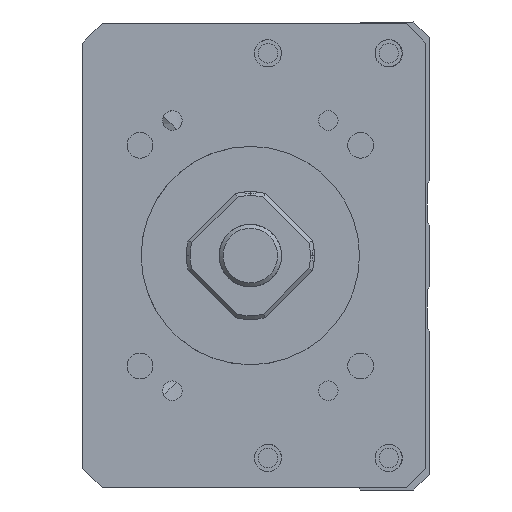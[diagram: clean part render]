
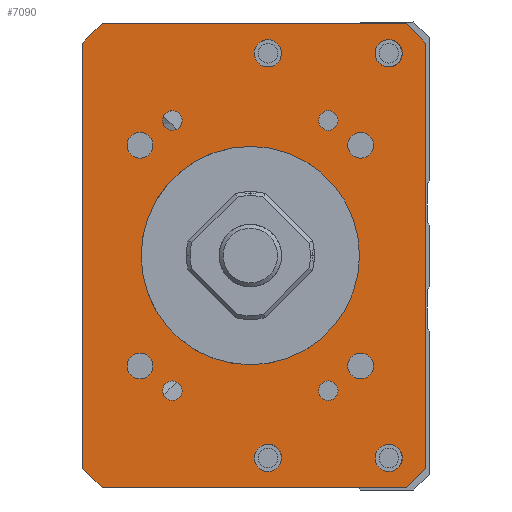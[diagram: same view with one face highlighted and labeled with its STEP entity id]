
A CAD part, left-side view. The second image highlights one B-rep face of the part: STEP entity #7090.
In plain terms, the highlighted planar face has unit normal (-1, 0, 0).
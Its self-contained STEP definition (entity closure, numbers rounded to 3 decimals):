
#4241=CIRCLE('',#14007,14.);
#4250=CIRCLE('',#14018,1.65);
#4251=CIRCLE('',#14019,1.65);
#4252=CIRCLE('',#14020,1.65);
#4253=CIRCLE('',#14021,1.65);
#4254=CIRCLE('',#14022,1.25);
#4255=CIRCLE('',#14023,1.75);
#4256=CIRCLE('',#14024,1.25);
#4257=CIRCLE('',#14025,1.75);
#4258=CIRCLE('',#14026,1.25);
#4259=CIRCLE('',#14027,1.75);
#4260=CIRCLE('',#14028,1.75);
#4261=CIRCLE('',#14029,1.25);
#4680=PLANE('',#14030);
#5469=LINE('',#18065,#6276);
#5471=LINE('',#18089,#6278);
#5472=LINE('',#18091,#6279);
#5473=LINE('',#18093,#6280);
#5474=LINE('',#18095,#6281);
#5475=LINE('',#18097,#6282);
#5476=LINE('',#18099,#6283);
#5477=LINE('',#18101,#6284);
#6276=VECTOR('',#15136,1.);
#6278=VECTOR('',#15160,1.);
#6279=VECTOR('',#15161,1.);
#6280=VECTOR('',#15162,1.);
#6281=VECTOR('',#15163,1.);
#6282=VECTOR('',#15164,1.);
#6283=VECTOR('',#15165,1.);
#6284=VECTOR('',#15166,1.);
#7090=ADVANCED_FACE('',(#7845,#7846,#7847,#7848,#7849,#7850,#7851,#7852,
#7853,#7854,#7855,#7856,#7857,#7858),#4680,.F.);
#7845=FACE_BOUND('',#8260,.T.);
#7846=FACE_BOUND('',#8261,.T.);
#7847=FACE_BOUND('',#8262,.T.);
#7848=FACE_BOUND('',#8263,.T.);
#7849=FACE_BOUND('',#8264,.T.);
#7850=FACE_BOUND('',#8265,.T.);
#7851=FACE_BOUND('',#8266,.T.);
#7852=FACE_BOUND('',#8267,.T.);
#7853=FACE_BOUND('',#8268,.T.);
#7854=FACE_BOUND('',#8269,.T.);
#7855=FACE_BOUND('',#8270,.T.);
#7856=FACE_BOUND('',#8271,.T.);
#7857=FACE_BOUND('',#8272,.T.);
#7858=FACE_BOUND('',#8273,.T.);
#8260=EDGE_LOOP('',(#9196));
#8261=EDGE_LOOP('',(#9197));
#8262=EDGE_LOOP('',(#9198));
#8263=EDGE_LOOP('',(#9199));
#8264=EDGE_LOOP('',(#9200));
#8265=EDGE_LOOP('',(#9201));
#8266=EDGE_LOOP('',(#9202));
#8267=EDGE_LOOP('',(#9203));
#8268=EDGE_LOOP('',(#9204));
#8269=EDGE_LOOP('',(#9205,#9206,#9207,#9208,#9209,#9210,#9211,#9212));
#8270=EDGE_LOOP('',(#9213));
#8271=EDGE_LOOP('',(#9214));
#8272=EDGE_LOOP('',(#9215));
#8273=EDGE_LOOP('',(#9216));
#9196=ORIENTED_EDGE('',*,*,#12645,.F.);
#9197=ORIENTED_EDGE('',*,*,#12646,.F.);
#9198=ORIENTED_EDGE('',*,*,#12647,.F.);
#9199=ORIENTED_EDGE('',*,*,#12648,.F.);
#9200=ORIENTED_EDGE('',*,*,#12649,.F.);
#9201=ORIENTED_EDGE('',*,*,#12650,.T.);
#9202=ORIENTED_EDGE('',*,*,#12651,.F.);
#9203=ORIENTED_EDGE('',*,*,#12652,.F.);
#9204=ORIENTED_EDGE('',*,*,#12653,.F.);
#9205=ORIENTED_EDGE('',*,*,#12642,.T.);
#9206=ORIENTED_EDGE('',*,*,#12654,.T.);
#9207=ORIENTED_EDGE('',*,*,#12655,.F.);
#9208=ORIENTED_EDGE('',*,*,#12656,.T.);
#9209=ORIENTED_EDGE('',*,*,#12657,.F.);
#9210=ORIENTED_EDGE('',*,*,#12658,.T.);
#9211=ORIENTED_EDGE('',*,*,#12659,.T.);
#9212=ORIENTED_EDGE('',*,*,#12660,.T.);
#9213=ORIENTED_EDGE('',*,*,#12661,.F.);
#9214=ORIENTED_EDGE('',*,*,#12662,.F.);
#9215=ORIENTED_EDGE('',*,*,#12663,.F.);
#9216=ORIENTED_EDGE('',*,*,#12622,.F.);
#11675=VERTEX_POINT('',#17988);
#11695=VERTEX_POINT('',#18064);
#11696=VERTEX_POINT('',#18066);
#11698=VERTEX_POINT('',#18072);
#11699=VERTEX_POINT('',#18074);
#11700=VERTEX_POINT('',#18076);
#11701=VERTEX_POINT('',#18078);
#11702=VERTEX_POINT('',#18080);
#11703=VERTEX_POINT('',#18082);
#11704=VERTEX_POINT('',#18084);
#11705=VERTEX_POINT('',#18086);
#11706=VERTEX_POINT('',#18088);
#11707=VERTEX_POINT('',#18090);
#11708=VERTEX_POINT('',#18092);
#11709=VERTEX_POINT('',#18094);
#11710=VERTEX_POINT('',#18096);
#11711=VERTEX_POINT('',#18098);
#11712=VERTEX_POINT('',#18100);
#11713=VERTEX_POINT('',#18103);
#11714=VERTEX_POINT('',#18105);
#11715=VERTEX_POINT('',#18107);
#12622=EDGE_CURVE('',#11675,#11675,#4241,.T.);
#12642=EDGE_CURVE('',#11696,#11695,#5469,.T.);
#12645=EDGE_CURVE('',#11698,#11698,#4250,.T.);
#12646=EDGE_CURVE('',#11699,#11699,#4251,.T.);
#12647=EDGE_CURVE('',#11700,#11700,#4252,.T.);
#12648=EDGE_CURVE('',#11701,#11701,#4253,.T.);
#12649=EDGE_CURVE('',#11702,#11702,#4254,.T.);
#12650=EDGE_CURVE('',#11703,#11703,#4255,.T.);
#12651=EDGE_CURVE('',#11704,#11704,#4256,.T.);
#12652=EDGE_CURVE('',#11705,#11705,#4257,.T.);
#12653=EDGE_CURVE('',#11706,#11706,#4258,.T.);
#12654=EDGE_CURVE('',#11695,#11707,#5471,.T.);
#12655=EDGE_CURVE('',#11708,#11707,#5472,.T.);
#12656=EDGE_CURVE('',#11708,#11709,#5473,.T.);
#12657=EDGE_CURVE('',#11710,#11709,#5474,.T.);
#12658=EDGE_CURVE('',#11710,#11711,#5475,.T.);
#12659=EDGE_CURVE('',#11711,#11712,#5476,.T.);
#12660=EDGE_CURVE('',#11712,#11696,#5477,.T.);
#12661=EDGE_CURVE('',#11713,#11713,#4259,.T.);
#12662=EDGE_CURVE('',#11714,#11714,#4260,.T.);
#12663=EDGE_CURVE('',#11715,#11715,#4261,.T.);
#14007=AXIS2_PLACEMENT_3D('',#17987,#15110,#15111);
#14018=AXIS2_PLACEMENT_3D('',#18071,#15142,#15143);
#14019=AXIS2_PLACEMENT_3D('',#18073,#15144,#15145);
#14020=AXIS2_PLACEMENT_3D('',#18075,#15146,#15147);
#14021=AXIS2_PLACEMENT_3D('',#18077,#15148,#15149);
#14022=AXIS2_PLACEMENT_3D('',#18079,#15150,#15151);
#14023=AXIS2_PLACEMENT_3D('',#18081,#15152,#15153);
#14024=AXIS2_PLACEMENT_3D('',#18083,#15154,#15155);
#14025=AXIS2_PLACEMENT_3D('',#18085,#15156,#15157);
#14026=AXIS2_PLACEMENT_3D('',#18087,#15158,#15159);
#14027=AXIS2_PLACEMENT_3D('',#18102,#15167,#15168);
#14028=AXIS2_PLACEMENT_3D('',#18104,#15169,#15170);
#14029=AXIS2_PLACEMENT_3D('',#18106,#15171,#15172);
#14030=AXIS2_PLACEMENT_3D('',#18108,#15173,#15174);
#15110=DIRECTION('',(-1.,0.,0.));
#15111=DIRECTION('',(0.,1.,0.));
#15136=DIRECTION('',(0.,0.,-1.));
#15142=DIRECTION('',(-1.,0.,0.));
#15143=DIRECTION('',(0.,0.,1.));
#15144=DIRECTION('',(-1.,0.,0.));
#15145=DIRECTION('',(0.,0.,1.));
#15146=DIRECTION('',(-1.,0.,0.));
#15147=DIRECTION('',(0.,0.,1.));
#15148=DIRECTION('',(-1.,0.,0.));
#15149=DIRECTION('',(0.,0.,1.));
#15150=DIRECTION('',(-1.,0.,0.));
#15151=DIRECTION('',(0.,1.,0.));
#15152=DIRECTION('',(1.,0.,0.));
#15153=DIRECTION('',(0.,0.,1.));
#15154=DIRECTION('',(-1.,0.,0.));
#15155=DIRECTION('',(0.,1.,0.));
#15156=DIRECTION('',(-1.,0.,0.));
#15157=DIRECTION('',(0.,0.,1.));
#15158=DIRECTION('',(-1.,0.,0.));
#15159=DIRECTION('',(0.,1.,0.));
#15160=DIRECTION('',(0.,-0.707,-0.707));
#15161=DIRECTION('',(0.,1.,0.));
#15162=DIRECTION('',(0.,-0.707,0.707));
#15163=DIRECTION('',(0.,0.,-1.));
#15164=DIRECTION('',(0.,0.707,0.707));
#15165=DIRECTION('',(0.,1.,0.));
#15166=DIRECTION('',(0.,0.707,-0.707));
#15167=DIRECTION('',(-1.,0.,0.));
#15168=DIRECTION('',(0.,0.,1.));
#15169=DIRECTION('',(-1.,0.,0.));
#15170=DIRECTION('',(0.,0.,1.));
#15171=DIRECTION('',(-1.,0.,0.));
#15172=DIRECTION('',(0.,1.,0.));
#15173=DIRECTION('',(1.,0.,0.));
#15174=DIRECTION('',(0.,-1.,0.));
#17987=CARTESIAN_POINT('',(-211.,0.,-400.));
#17988=CARTESIAN_POINT('',(-211.,14.,-400.));
#18064=CARTESIAN_POINT('',(-211.,21.499,-427.25));
#18065=CARTESIAN_POINT('',(-211.,21.499,-370.25));
#18066=CARTESIAN_POINT('',(-211.,21.499,-372.75));
#18071=CARTESIAN_POINT('',(-211.,14.142,-385.858));
#18072=CARTESIAN_POINT('',(-211.,14.142,-384.208));
#18073=CARTESIAN_POINT('',(-211.,-14.142,-385.858));
#18074=CARTESIAN_POINT('',(-211.,-14.142,-384.208));
#18075=CARTESIAN_POINT('',(-211.,14.142,-414.142));
#18076=CARTESIAN_POINT('',(-211.,14.142,-412.492));
#18077=CARTESIAN_POINT('',(-211.,-14.142,-414.142));
#18078=CARTESIAN_POINT('',(-211.,-14.142,-412.492));
#18079=CARTESIAN_POINT('',(-211.,-10.,-417.321));
#18080=CARTESIAN_POINT('',(-211.,-8.75,-417.321));
#18081=CARTESIAN_POINT('',(-211.,-2.25,-425.936));
#18082=CARTESIAN_POINT('',(-211.,-2.25,-424.186));
#18083=CARTESIAN_POINT('',(-211.,10.,-382.679));
#18084=CARTESIAN_POINT('',(-211.,11.25,-382.679));
#18085=CARTESIAN_POINT('',(-211.,-2.25,-374.064));
#18086=CARTESIAN_POINT('',(-211.,-2.25,-372.314));
#18087=CARTESIAN_POINT('',(-211.,10.,-417.321));
#18088=CARTESIAN_POINT('',(-211.,11.25,-417.321));
#18089=CARTESIAN_POINT('',(-211.,18.999,-429.75));
#18090=CARTESIAN_POINT('',(-211.,18.999,-429.75));
#18091=CARTESIAN_POINT('',(-211.,-22.501,-429.75));
#18092=CARTESIAN_POINT('',(-211.,-20.001,-429.75));
#18093=CARTESIAN_POINT('',(-211.,-22.501,-427.25));
#18094=CARTESIAN_POINT('',(-211.,-22.501,-427.25));
#18095=CARTESIAN_POINT('',(-211.,-22.501,-370.25));
#18096=CARTESIAN_POINT('',(-211.,-22.501,-372.75));
#18097=CARTESIAN_POINT('',(-211.,-22.501,-372.75));
#18098=CARTESIAN_POINT('',(-211.,-20.001,-370.25));
#18099=CARTESIAN_POINT('',(-211.,-22.501,-370.25));
#18100=CARTESIAN_POINT('',(-211.,18.999,-370.25));
#18101=CARTESIAN_POINT('',(-211.,18.999,-370.25));
#18102=CARTESIAN_POINT('',(-211.,-17.75,-374.064));
#18103=CARTESIAN_POINT('',(-211.,-17.75,-372.314));
#18104=CARTESIAN_POINT('',(-211.,-17.75,-425.936));
#18105=CARTESIAN_POINT('',(-211.,-17.75,-424.186));
#18106=CARTESIAN_POINT('',(-211.,-10.,-382.679));
#18107=CARTESIAN_POINT('',(-211.,-8.75,-382.679));
#18108=CARTESIAN_POINT('',(-211.,-22.501,-370.25));
